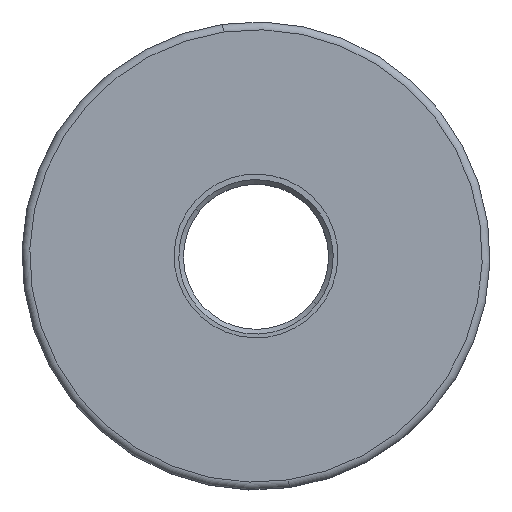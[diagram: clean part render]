
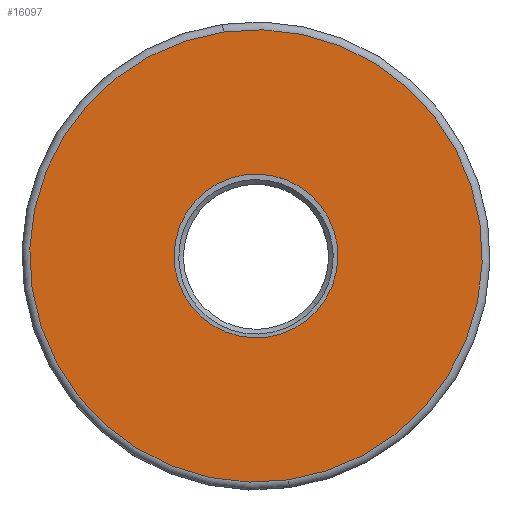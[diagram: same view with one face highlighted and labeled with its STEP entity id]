
A CAD part, top view. The second image highlights one B-rep face of the part: STEP entity #16097.
In plain terms, the highlighted planar face has unit normal (0, 0, 1) as drawn and (0, 0, -1) by its records, which use the part's own axes.
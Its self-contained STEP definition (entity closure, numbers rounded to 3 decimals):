
#720 = VERTEX_POINT ( 'NONE', #13388 ) ;
#1631 = CIRCLE ( 'NONE', #4183, 29. ) ;
#2366 = EDGE_CURVE ( 'NONE', #720, #10742, #7111, .T. ) ;
#3488 = ORIENTED_EDGE ( 'NONE', *, *, #2366, .T. ) ;
#4183 = AXIS2_PLACEMENT_3D ( 'NONE', #5536, #19465, #17751 ) ;
#4441 = PLANE ( 'NONE',  #22203 ) ;
#5297 = AXIS2_PLACEMENT_3D ( 'NONE', #8874, #8416, #21080 ) ;
#5420 = CARTESIAN_POINT ( 'NONE',  ( -10.5, 0., 0. ) ) ;
#5536 = CARTESIAN_POINT ( 'NONE',  ( 0., 0., 0. ) ) ;
#7005 = AXIS2_PLACEMENT_3D ( 'NONE', #15163, #9403, #11529 ) ;
#7111 = CIRCLE ( 'NONE', #5297, 29. ) ;
#7336 = VERTEX_POINT ( 'NONE', #14882 ) ;
#8072 = DIRECTION ( 'NONE',  ( 0., 0., 1. ) ) ;
#8416 = DIRECTION ( 'NONE',  ( 0., 0., -1. ) ) ;
#8602 = VERTEX_POINT ( 'NONE', #5420 ) ;
#8874 = CARTESIAN_POINT ( 'NONE',  ( 0., 0., 0. ) ) ;
#9403 = DIRECTION ( 'NONE',  ( 0., 0., 1. ) ) ;
#9443 = AXIS2_PLACEMENT_3D ( 'NONE', #11452, #20008, #21827 ) ;
#10131 = EDGE_CURVE ( 'NONE', #10742, #720, #1631, .T. ) ;
#10456 = ORIENTED_EDGE ( 'NONE', *, *, #14296, .T. ) ;
#10576 = ORIENTED_EDGE ( 'NONE', *, *, #10131, .T. ) ;
#10742 = VERTEX_POINT ( 'NONE', #12592 ) ;
#11400 = CIRCLE ( 'NONE', #9443, 10.5 ) ;
#11452 = CARTESIAN_POINT ( 'NONE',  ( 0., 0., 0. ) ) ;
#11529 = DIRECTION ( 'NONE',  ( 1., 0., 0. ) ) ;
#12592 = CARTESIAN_POINT ( 'NONE',  ( -29., 0., 0. ) ) ;
#12844 = EDGE_CURVE ( 'NONE', #8602, #7336, #15371, .T. ) ;
#13388 = CARTESIAN_POINT ( 'NONE',  ( 29., 0., 0. ) ) ;
#13834 = EDGE_LOOP ( 'NONE', ( #3488, #10576 ) ) ;
#14296 = EDGE_CURVE ( 'NONE', #7336, #8602, #11400, .T. ) ;
#14811 = CARTESIAN_POINT ( 'NONE',  ( 0., 0., 0. ) ) ;
#14882 = CARTESIAN_POINT ( 'NONE',  ( 10.5, 0., 0. ) ) ;
#15032 = FACE_OUTER_BOUND ( 'NONE', #13834, .T. ) ;
#15163 = CARTESIAN_POINT ( 'NONE',  ( 0., 0., 0. ) ) ;
#15371 = CIRCLE ( 'NONE', #7005, 10.5 ) ;
#16097 = ADVANCED_FACE ( 'NONE', ( #15032, #16523 ), #4441, .F. ) ;
#16420 = ORIENTED_EDGE ( 'NONE', *, *, #12844, .T. ) ;
#16523 = FACE_BOUND ( 'NONE', #18896, .T. ) ;
#17751 = DIRECTION ( 'NONE',  ( 1., 0., 0. ) ) ;
#18577 = DIRECTION ( 'NONE',  ( 1., 0., 0. ) ) ;
#18896 = EDGE_LOOP ( 'NONE', ( #16420, #10456 ) ) ;
#19465 = DIRECTION ( 'NONE',  ( 0., 0., -1. ) ) ;
#20008 = DIRECTION ( 'NONE',  ( 0., 0., 1. ) ) ;
#21080 = DIRECTION ( 'NONE',  ( 1., 0., 0. ) ) ;
#21827 = DIRECTION ( 'NONE',  ( 1., 0., 0. ) ) ;
#22203 = AXIS2_PLACEMENT_3D ( 'NONE', #14811, #8072, #18577 ) ;
